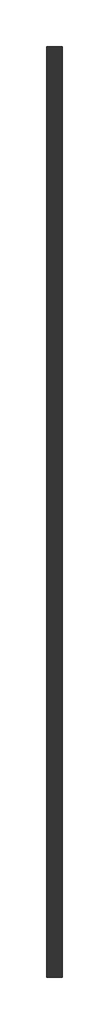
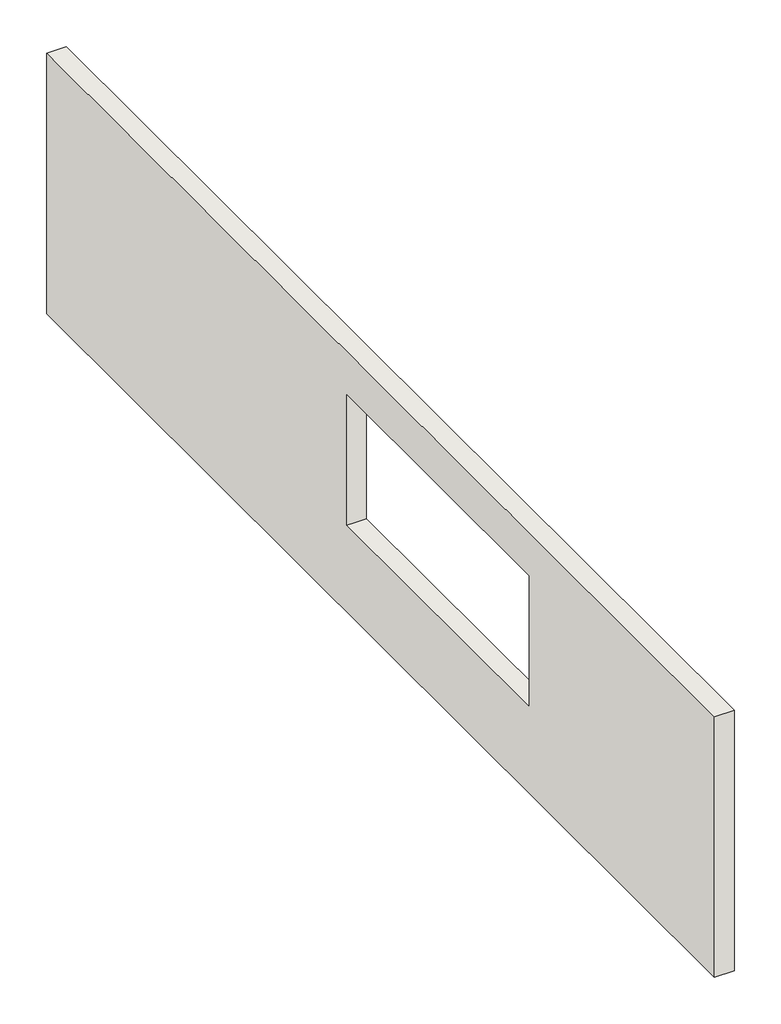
# One storey: 1 wall.
"""IFC4 building model written with IfcOpenShell, lengths in millimetres."""

from ifc_helpers import new_model, si_unit, frame, origin, place, context, project, spatial, polyline, outline, extrude, element, save

model = new_model("IFC4")

# Units and contexts
model_context = context("Model", 3, world=origin())
ifc_project = project(units=[si_unit("LENGTHUNIT", "METRE", prefix="MILLI")], contexts=[model_context])

# Site, building, storey
site = spatial("IfcSite", under=ifc_project)
building = spatial("IfcBuilding", under=site)
storey = spatial("IfcBuildingStorey", under=building, Name="室外地坪", Elevation=-600.0)

# Wall
placement = place(None, origin())
element("IfcWall", 1, ObjectType="F1-24CM-外牆", at=placement, inside=storey, context=model_context, shape_type="SweptSolid", body=[
    extrude(outline(polyline([(-28279.0484842, -600.0), (-28279.0484842, 3600.0), (-10659.0484842, 3600.0), (-10659.0484842, -600.0), (-28279.0484842, -600.0)]), holes=[polyline([(-23379.0484842, 800.0), (-18579.0484842, 800.0), (-18579.0484842, 2900.0), (-23379.0484842, 2900.0), (-23379.0484842, 800.0)])]), frame((19278.2029165, 0.0, 0.0), z_axis=(1.0, 0.0, 0.0), x_axis=(0.0, 1.0, 0.0)), (0.0, 0.0, 1.0), 300.0),
])

save(model, "model.ifc")
